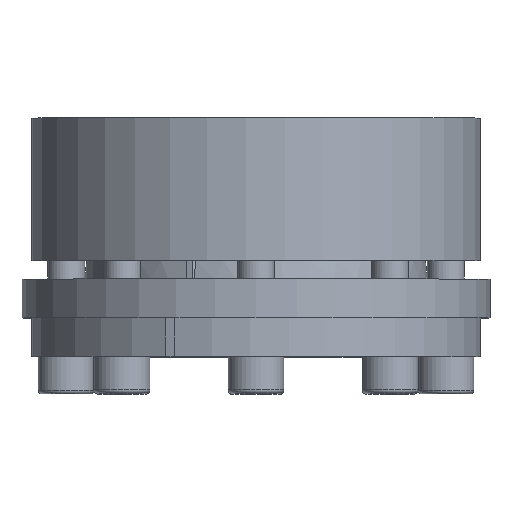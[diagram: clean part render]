
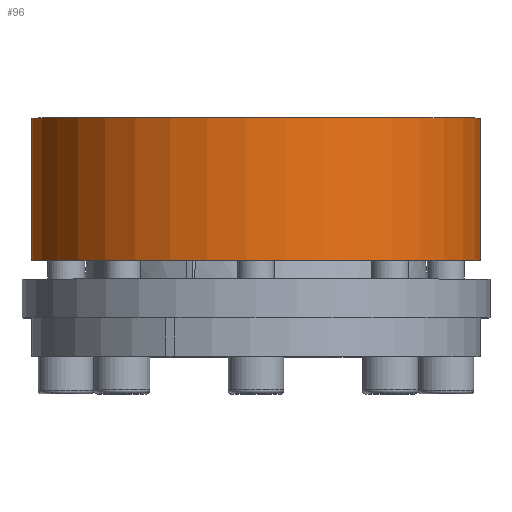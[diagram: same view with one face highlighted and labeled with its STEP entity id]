
A CAD part, top view. The second image highlights one B-rep face of the part: STEP entity #96.
In plain terms, the highlighted cylindrical face has radius 72.5 mm (diameter 145 mm), a partial arc.
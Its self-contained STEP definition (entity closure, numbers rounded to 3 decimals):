
#96 = ADVANCED_FACE( '', ( #218 ), #219, .T. );
#218 = FACE_OUTER_BOUND( '', #414, .T. );
#219 = CYLINDRICAL_SURFACE( '', #415, 72.5 );
#414 = EDGE_LOOP( '', ( #667, #668, #669, #670 ) );
#415 = AXIS2_PLACEMENT_3D( '', #671, #672, #673 );
#667 = ORIENTED_EDGE( '', *, *, #1069, .F. );
#668 = ORIENTED_EDGE( '', *, *, #1061, .T. );
#669 = ORIENTED_EDGE( '', *, *, #1070, .T. );
#670 = ORIENTED_EDGE( '', *, *, #1031, .F. );
#671 = CARTESIAN_POINT( '', ( 0., -60., 0. ) );
#672 = DIRECTION( '', ( 0., 1., 0. ) );
#673 = DIRECTION( '', ( 0., 0., -1. ) );
#1031 = EDGE_CURVE( '', #1233, #1234, #1235, .F. );
#1061 = EDGE_CURVE( '', #1279, #1288, #1290, .F. );
#1069 = EDGE_CURVE( '', #1279, #1233, #1302, .T. );
#1070 = EDGE_CURVE( '', #1288, #1234, #1303, .T. );
#1233 = VERTEX_POINT( '', #1592 );
#1234 = VERTEX_POINT( '', #1593 );
#1235 = LINE( '', #1594, #1595 );
#1279 = VERTEX_POINT( '', #1659 );
#1288 = VERTEX_POINT( '', #1674 );
#1290 = LINE( '', #1677, #1678 );
#1302 = CIRCLE( '', #1690, 72.5 );
#1303 = CIRCLE( '', #1691, 72.5 );
#1592 = CARTESIAN_POINT( '', ( 26.399, 31., -67.523 ) );
#1593 = CARTESIAN_POINT( '', ( 26.399, 77., -67.523 ) );
#1594 = CARTESIAN_POINT( '', ( 26.399, -60., -67.523 ) );
#1595 = VECTOR( '', #1890, 1000. );
#1659 = CARTESIAN_POINT( '', ( 29.079, 31., -66.413 ) );
#1674 = CARTESIAN_POINT( '', ( 29.079, 77., -66.413 ) );
#1677 = CARTESIAN_POINT( '', ( 29.079, -60., -66.413 ) );
#1678 = VECTOR( '', #1921, 1000. );
#1690 = AXIS2_PLACEMENT_3D( '', #1934, #1935, #1936 );
#1691 = AXIS2_PLACEMENT_3D( '', #1937, #1938, #1939 );
#1890 = DIRECTION( '', ( 0., -1., 0. ) );
#1921 = DIRECTION( '', ( 0., -1., 0. ) );
#1934 = CARTESIAN_POINT( '', ( 0., 31., 0. ) );
#1935 = DIRECTION( '', ( 0., -1., 0. ) );
#1936 = DIRECTION( '', ( 0., 0., -1. ) );
#1937 = CARTESIAN_POINT( '', ( 0., 77., 0. ) );
#1938 = DIRECTION( '', ( 0., -1., 0. ) );
#1939 = DIRECTION( '', ( 0., 0., -1. ) );
